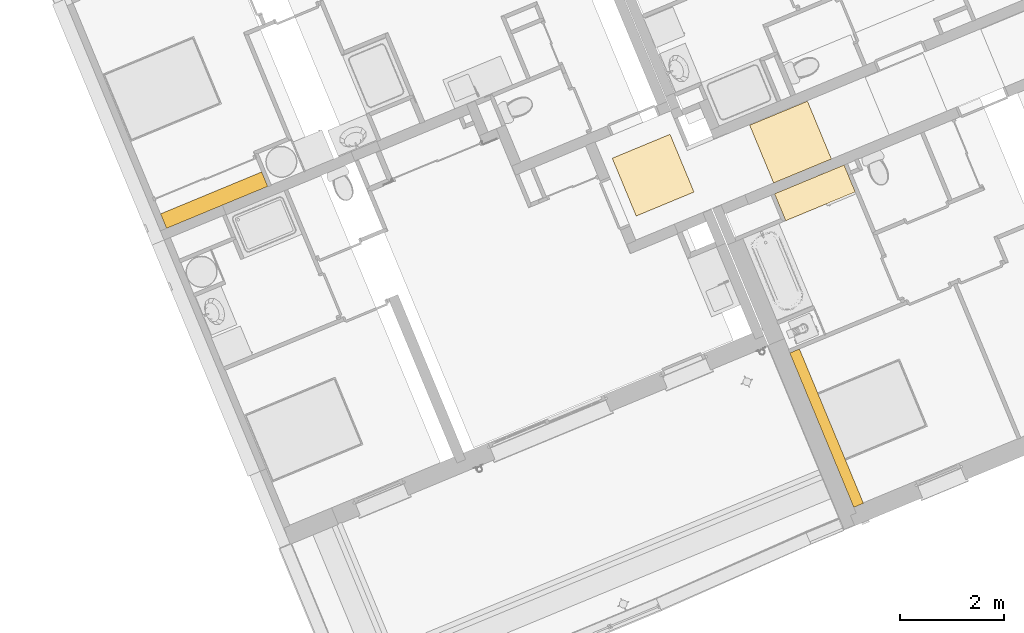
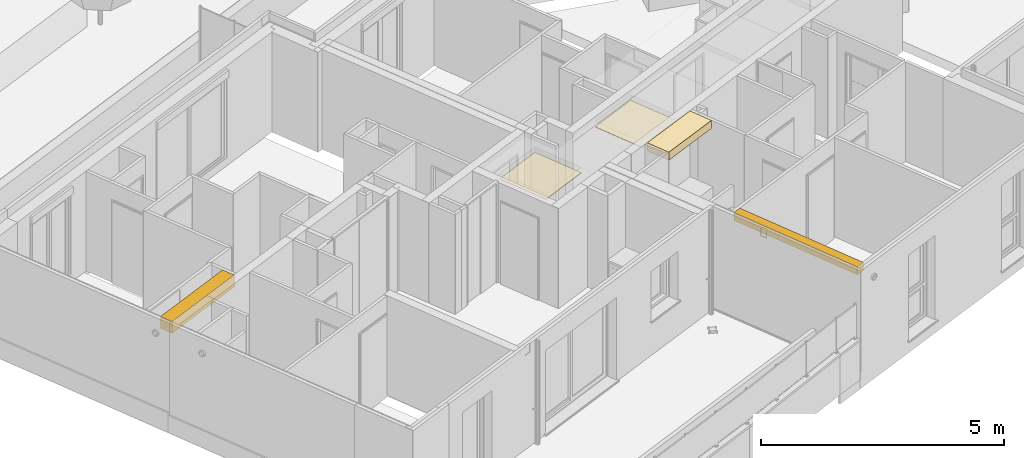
# One storey, part 69 of 119: 5 coverings.
"""IFC2X3 building model written with IfcOpenShell, lengths in metres."""

from ifc_helpers import new_model, entity, si_unit, converted_unit, derived_unit, money_unit, direction, frame, origin_with_axes, place, context, subcontext, project, spatial, faceted_brep, material, type_object, element, save


model = new_model("IFC2X3")

# Units and contexts
model_context = context("Model", 3, precision=1e-05, world=origin_with_axes(), true_north=direction((0.0, 1.0)))
body_context = subcontext(model_context, "Body", "Model", "MODEL_VIEW")
ifc_project = project(units=[si_unit("LENGTHUNIT", "METRE"), si_unit("AREAUNIT", "SQUARE_METRE"), si_unit("VOLUMEUNIT", "CUBIC_METRE"), converted_unit("PLANEANGLEUNIT", "DEGREE", entity("IfcPlaneAngleMeasure", 0.0174532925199), si_unit("PLANEANGLEUNIT", "RADIAN"), dimensions=[0, 0, 0, 0, 0, 0, 0]), si_unit("SOLIDANGLEUNIT", "STERADIAN"), money_unit("EUR"), converted_unit("TIMEUNIT", "Year", entity("IfcTimeMeasure", 31556926.0), si_unit("TIMEUNIT", "SECOND"), dimensions=[0, 0, 1, 0, 0, 0, 0]), si_unit("MASSUNIT", "GRAM", prefix="KILO"), si_unit("THERMODYNAMICTEMPERATUREUNIT", "DEGREE_CELSIUS"), si_unit("LUMINOUSINTENSITYUNIT", "LUMEN"), si_unit("ENERGYUNIT", "JOULE", prefix="MEGA"), derived_unit("THERMALCONDUCTANCEUNIT", [(si_unit("POWERUNIT", "WATT"), 1), (si_unit("LENGTHUNIT", "METRE"), -1), (si_unit("THERMODYNAMICTEMPERATUREUNIT", "KELVIN"), -1)]), derived_unit("SPECIFICHEATCAPACITYUNIT", [(si_unit("ENERGYUNIT", "JOULE"), 1), (si_unit("MASSUNIT", "GRAM", prefix="KILO"), -1), (si_unit("THERMODYNAMICTEMPERATUREUNIT", "KELVIN"), -1)]), derived_unit("MASSDENSITYUNIT", [(si_unit("MASSUNIT", "GRAM", prefix="KILO"), 1), (si_unit("VOLUMEUNIT", "CUBIC_METRE"), -1)])], contexts=[model_context])

# Site, building, storey
site_placement = place(None, origin_with_axes())
site = spatial("IfcSite", under=ifc_project, at=site_placement, Name="Site", CompositionType="ELEMENT")
building_placement = place(site_placement, origin_with_axes())
building = spatial("IfcBuilding", under=site, at=building_placement, Name="Bâtiment", CompositionType="ELEMENT")
storey_placement = place(building_placement, origin_with_axes())
storey = spatial("IfcBuildingStorey", under=building, at=storey_placement, Name="Rez-de-chaussée", CompositionType="ELEMENT", Elevation=0.0)

# Coverings
ifc_material_1 = material(Name="Finition int - Plaque de plâtre")
covering_type_1 = type_object("IfcCoveringType", Name="Finition int - Plaque de plâtre 200", PredefinedType="CEILING")
covering_1_placement = place(storey_placement, frame((-21.2015068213, -24.8366893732, 2.5), z_axis=(0.0, 0.0, 1.0), x_axis=(1.0, 0.0, 0.0)))
element("IfcCovering", 1, at=covering_1_placement, inside=storey, type_object=covering_type_1, material=ifc_material_1, Name="Dalle_003", PredefinedType="CEILING", context=body_context, shape_type="Brep", body=[
    faceted_brep([(1.22787570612, -2.96046385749, 0.0), (0.0, 0.0, 0.0), (0.0, 0.0, -0.2), (1.22787570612, -2.96046385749, -0.2), (1.41261604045, -2.88384134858, 0.0), (0.184740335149, 0.0766225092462, 0.0), (0.184740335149, 0.0766225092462, -0.2), (1.41261604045, -2.88384134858, -0.2)], [[[0, 1, 2, 3]], [[4, 5, 1, 0]], [[1, 5, 6, 2]], [[7, 3, 2, 6]], [[4, 0, 3, 7]], [[5, 4, 7, 6]]]),
])
covering_2_placement = place(storey_placement, frame((-21.4206319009, -21.9591897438, 2.5), z_axis=(0.0, 0.0, 1.0), x_axis=(1.0, 0.0, 0.0)))
element("IfcCovering", 2, at=covering_2_placement, inside=storey, type_object=covering_type_1, material=ifc_material_1, Name="Dalle_003", PredefinedType="CEILING", context=body_context, shape_type="Brep", body=[
    faceted_brep([(0.140947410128, -0.339830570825, 0.0), (0.140947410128, -0.339830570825, -0.2), (1.47384891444, 0.21300082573, -0.2), (1.47384891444, 0.21300082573, 0.0), (-0.0727913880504, 0.175503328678, 0.0), (-0.0727913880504, 0.175503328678, -0.2), (1.26011011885, 0.728334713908, -0.2), (1.26011011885, 0.728334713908, 0.0)], [[[0, 1, 2, 3]], [[4, 5, 1, 0]], [[1, 5, 6, 2]], [[3, 2, 6, 7]], [[4, 0, 3, 7]], [[7, 6, 5, 4]]]),
])
ifc_material_2 = material(Name="Finition int - Plaque de plâtre ACOUSTIQUE type GYPTONE")
covering_type_2 = type_object("IfcCoveringType", Name="Finition int - Plaque de plâtre ACOUSTIQUE type GYPTONE 15", PredefinedType="CEILING")
for number, where, z_axis, x_axis, name in (
    (3, (-21.9716545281, -20.4663957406, 2.272), (0.0, 0.0, 1.0), (1.0, 0.0, 0.0), "Dalle_004"),
    (4, (-24.6076668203, -21.1007749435, 2.272), (0.0, 0.0, 1.0), (1.0, 0.0, 0.0), "Dalle_004"),
):
    element("IfcCovering", number, at=place(storey_placement, frame(where, z_axis=z_axis, x_axis=x_axis)), inside=storey, type_object=covering_type_2, material=ifc_material_2, Name=name, PredefinedType="CEILING", context=body_context, shape_type="Brep", body=[
        faceted_brep([(0.0, 0.0, 0.0), (0.0, 0.0, -0.015), (0.459735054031, -1.10844200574, -0.015), (0.459735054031, -1.10844200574, 0.0), (1.10844200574, 0.459735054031, 0.0), (1.10844200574, 0.459735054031, -0.015), (1.56817705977, -0.648706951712, -0.015), (1.56817705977, -0.648706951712, 0.0)], [[[0, 1, 2, 3]], [[4, 5, 1, 0]], [[2, 1, 5, 6]], [[3, 2, 6, 7]], [[4, 0, 3, 7]], [[7, 6, 5, 4]]]),
    ])
covering_type_3 = type_object("IfcCoveringType", Name="Finition int - Plaque de plâtre 300", PredefinedType="CEILING")
covering_3_placement = place(storey_placement, frame((-31.2182617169, -21.6405615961, 2.5), z_axis=(0.0, 0.0, 1.0), x_axis=(1.0, 0.0, 0.0)))
element("IfcCovering", 5, at=covering_3_placement, inside=storey, type_object=covering_type_3, material=ifc_material_1, Name="Dalle_003", PredefinedType="CEILING", context=body_context, shape_type="Brep", body=[
    faceted_brep([(0.0, 0.0, 0.0), (0.0, 0.0, -0.3), (-0.11493376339, 0.277110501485, -0.3), (-0.11493376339, 0.277110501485, 0.0), (-1.93977350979, -0.804536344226, 0.0), (-1.93977350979, -0.804536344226, -0.3), (-2.05470727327, -0.527425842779, -0.3), (-2.05470727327, -0.527425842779, 0.0)], [[[0, 1, 2, 3]], [[4, 5, 1, 0]], [[2, 1, 5, 6]], [[3, 2, 6, 7]], [[4, 0, 3, 7]], [[7, 6, 5, 4]]]),
])

save(model, "model.ifc")
